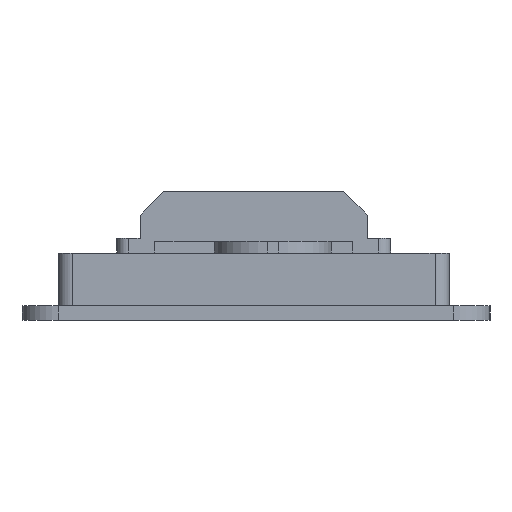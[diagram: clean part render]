
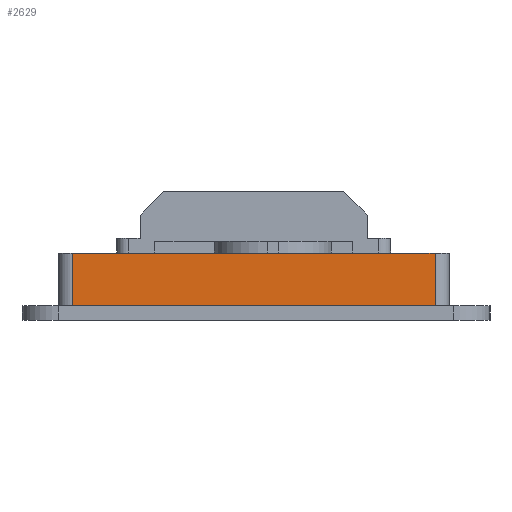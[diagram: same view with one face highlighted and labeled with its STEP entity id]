
A CAD part, left-side view. The second image highlights one B-rep face of the part: STEP entity #2629.
In plain terms, the highlighted planar face has unit normal (-1, 0, 0).
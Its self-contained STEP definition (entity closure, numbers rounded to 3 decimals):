
#159=PLANE('',#2887);
#299=FACE_OUTER_BOUND('',#463,.T.);
#463=EDGE_LOOP('',(#2457,#2458,#2459,#2460));
#522=LINE('',#3826,#794);
#718=LINE('',#4363,#990);
#735=LINE('',#4400,#1007);
#736=LINE('',#4402,#1008);
#794=VECTOR('',#3036,10.);
#990=VECTOR('',#3588,10.);
#1007=VECTOR('',#3641,10.);
#1008=VECTOR('',#3644,10.);
#1184=VERTEX_POINT('',#3823);
#1185=VERTEX_POINT('',#3825);
#1347=VERTEX_POINT('',#4360);
#1348=VERTEX_POINT('',#4362);
#1434=EDGE_CURVE('',#1184,#1185,#522,.T.);
#1702=EDGE_CURVE('',#1348,#1347,#718,.T.);
#1721=EDGE_CURVE('',#1347,#1185,#735,.T.);
#1722=EDGE_CURVE('',#1348,#1184,#736,.T.);
#2457=ORIENTED_EDGE('',*,*,#1702,.T.);
#2458=ORIENTED_EDGE('',*,*,#1721,.T.);
#2459=ORIENTED_EDGE('',*,*,#1434,.F.);
#2460=ORIENTED_EDGE('',*,*,#1722,.F.);
#2629=ADVANCED_FACE('',(#299),#159,.T.);
#2887=AXIS2_PLACEMENT_3D('',#4401,#3642,#3643);
#3036=DIRECTION('',(0.,-1.,0.));
#3588=DIRECTION('',(0.,-1.,0.));
#3641=DIRECTION('',(0.,0.,1.));
#3642=DIRECTION('center_axis',(-1.,0.,0.));
#3643=DIRECTION('ref_axis',(0.,-1.,0.));
#3644=DIRECTION('',(0.,0.,1.));
#3823=CARTESIAN_POINT('',(-65.698,-31.,-94.25));
#3825=CARTESIAN_POINT('',(-65.698,-62.,-94.25));
#3826=CARTESIAN_POINT('',(-65.698,-62.,-94.25));
#4360=CARTESIAN_POINT('',(-65.698,-62.,-98.75));
#4362=CARTESIAN_POINT('',(-65.698,-31.,-98.75));
#4363=CARTESIAN_POINT('',(-65.698,-31.,-98.75));
#4400=CARTESIAN_POINT('',(-65.698,-62.,-98.75));
#4401=CARTESIAN_POINT('Origin',(-65.698,-31.,-98.75));
#4402=CARTESIAN_POINT('',(-65.698,-31.,-98.75));
